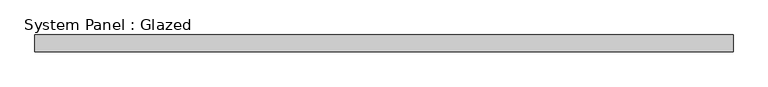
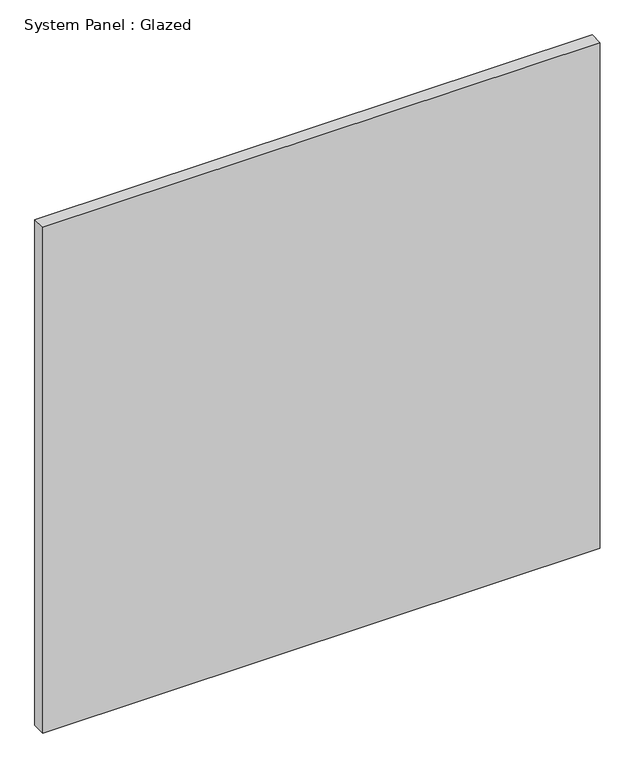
"""IFC4 building model written with IfcOpenShell, lengths in millimetres: plate geometry, System Panel : Glazed."""

from ifc_helpers import new_model, si_unit, origin, origin_with_axes, place, context, project, spatial, polyline, outline, extrude, source, transform, mapped, element, save


def system_panel_glazed_cab14959(model_context):
    return source(origin(), model_context, "Body", "SweptSolid", [
        extrude(outline(polyline([(519.9414771, 24.5), (-519.9414771, 24.5), (-519.9414771, 49.5), (519.9414771, 49.5), (519.9414771, 24.5)])), origin_with_axes(), (0.0, 0.0, 1.0), 997.3252755),
    ])


if __name__ == "__main__":
    model = new_model("IFC4")
    model_context = context("Model", 3, world=origin())
    ifc_project = project(units=[si_unit("LENGTHUNIT", "METRE", prefix="MILLI")], contexts=[model_context])
    site = spatial("IfcSite", under=ifc_project)
    building = spatial("IfcBuilding", under=site)
    placement = place(None, origin())
    system_panel_glazed_shape = system_panel_glazed_cab14959(model_context)
    element("IfcPlate", 1, ObjectType="System Panel : Glazed", at=placement, inside=building, context=model_context, shape_type="MappedRepresentation", body=[
        mapped(system_panel_glazed_shape, transform((0.0, 0.0, 0.0), x_axis=(1.0, 0.0, 0.0), y_axis=(0.0, 1.0, 0.0), z_axis=(0.0, 0.0, 1.0))),
    ])
    save(model, "model.ifc")
